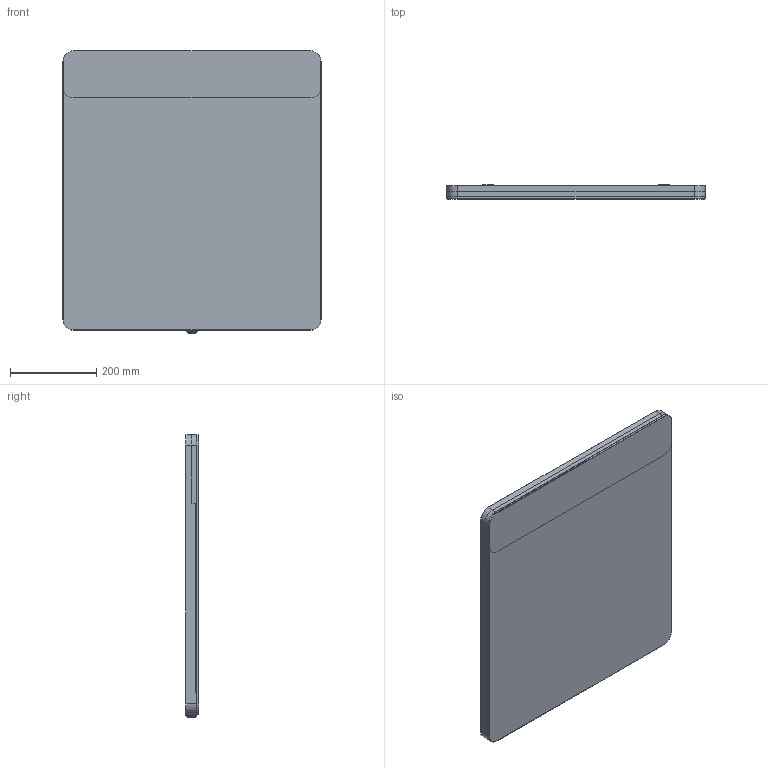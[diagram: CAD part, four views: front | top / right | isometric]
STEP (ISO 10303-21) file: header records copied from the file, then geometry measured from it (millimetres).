
FILE_DESCRIPTION(/* description */ ('STEP AP214'),/* implementation_level */ '2;1');
FILE_NAME(/* name */ 'C:\Planerdaten\Export PLA\819260000\stp\819260000.stp',/* time_stamp */ '2020-03-06T07:59:02+01:00',/* author */ (''),/* organization */ (''),/* preprocessor_version */ 'ST-DEVELOPER v16.13',/* originating_system */ 'Autodesk Inventor 2018',/* authorisation */ '');
FILE_SCHEMA (('AUTOMOTIVE_DESIGN { 1 0 10303 214 3 1 1 }'));
Length unit declared in the file: millimetre
Products named in the file (11): LiSpgl Ge+Opt B60 Bel-oben; RAMA ZEWNÊT  LUSTRA 600X650; SZYBA-LUS-600x650-M; RAM-WEW-LUS-600x650; PPR-PRO-25x20x550-AL_1; PPR-PRO-25x20x375-AL_1; zaslepka do profilu 25x20_3; HAK MONTA¯OWY; WYL-WAND-19-LED-GR (Wszystkie elementy Content Center wy³¹czo
ne); WYL-WAND-19-LED-GR; JIS B 1181 normal. Klasa 3 - Metryczny Klasa 3 normal. M16
Assembly tree (13 placements, depth 3):
  LiSpgl Ge+Opt B60 Bel-oben
    RAMA ZEWNÊT  LUSTRA 600X650
    SZYBA-LUS-600x650-M
    RAM-WEW-LUS-600x650
      PPR-PRO-25x20x550-AL_1
      PPR-PRO-25x20x375-AL_1
      zaslepka do profilu 25x20_3  x3
    HAK MONTA¯OWY  x2
    WYL-WAND-19-LED-GR (Wszystkie elementy Content Center wy³¹czo
ne)
      WYL-WAND-19-LED-GR
      JIS B 1181 normal. Klasa 3 - Metryczny Klasa 3 normal. M16
Bounding box: 600 x 32.01 x 657.5 mm (x, y, z)
Volume: 2279156 mm3; surface area: 1153532.9 mm2
Topology: 11 solids, 11 shells, 309 faces, 775 edges, 486 vertices
Faces by surface type: plane 192, cylinder 84, cone 21, sphere 12
Full cylindrical faces by diameter (mm): 4.8 x2, 6 x2, 13 x1, 15 x1, 15.5 x1, 19 x2, 19.02 x2, 22 x1
Entity records: 8119 total; most frequent: CARTESIAN_POINT 1451, DIRECTION 1325, ORIENTED_EDGE 1278, EDGE_CURVE 639, LINE 463, VECTOR 463, AXIS2_PLACEMENT_3D 431, VERTEX_POINT 419
